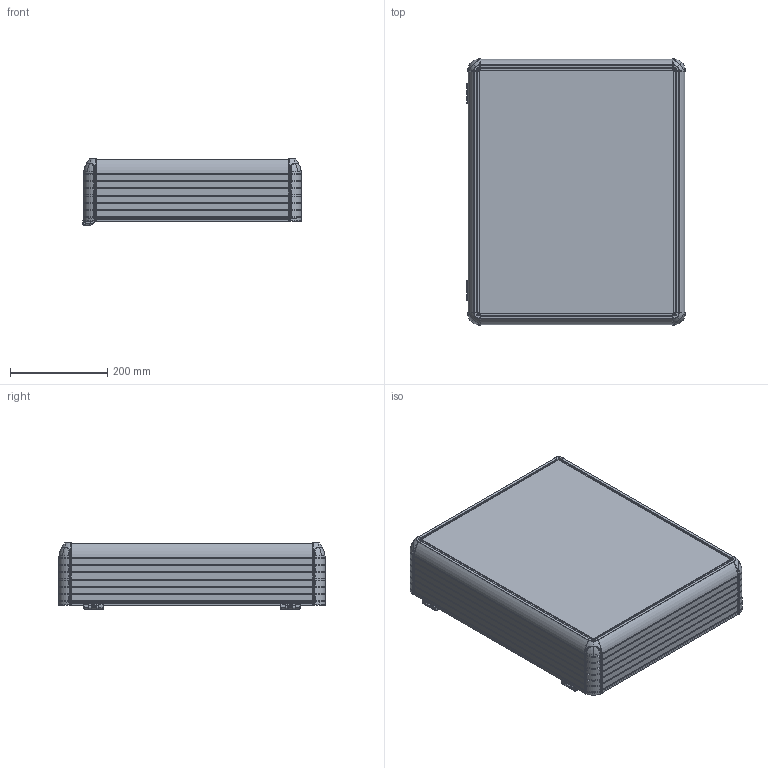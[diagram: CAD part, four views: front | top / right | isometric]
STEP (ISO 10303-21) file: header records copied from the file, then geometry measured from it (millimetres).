
FILE_DESCRIPTION (( 'STEP AP214' ), '1' );
FILE_NAME ('1200-0010.STEP', '2022-04-20T10:33:36', ( '' ), ( '' ), 'SwSTEP 2.0', 'SolidWorks 2022', '' );
FILE_SCHEMA (( 'AUTOMOTIVE_DESIGN' ));
Length unit declared in the file: millimetre
Products named in the file (6): ECO1200-0000; HPECO-120-001-295_495; 400X500; ARKA_KAPAK_400X500; HPECO-120-001-295_395; 1200-0010
Assembly tree (10 placements, depth 2):
  1200-0010
    400X500
    ARKA_KAPAK_400X500
    HPECO-120-001-295_395  x2
    ECO1200-0000  x4
    HPECO-120-001-295_495  x2
Bounding box: 449.03 x 547 x 136.15 mm (x, y, z)
Volume: 4654439.3 mm3; surface area: 1622459.4 mm2
Topology: 18 solids, 68 shells, 5793 faces, 15616 edges, 9766 vertices
Faces by surface type: plane 2417, cylinder 1464, bspline 1056, cone 566, torus 244, sphere 46
Entity records: 148711 total; most frequent: CARTESIAN_POINT 35316, ORIENTED_EDGE 17950, DIRECTION 15804, EDGE_CURVE 8975, AXIS2_PLACEMENT_3D 5770, VERTEX_POINT 5595, LINE 4264, VECTOR 4264
